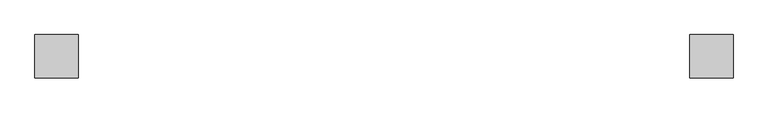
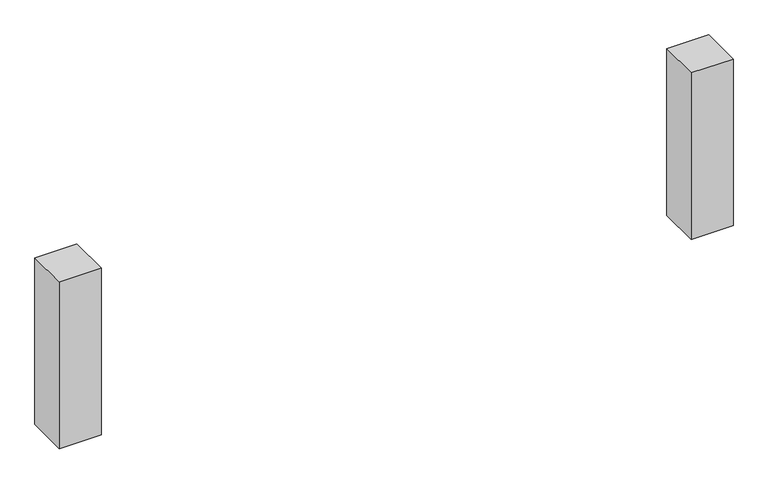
"""IFC4 building model written with IfcOpenShell, lengths in millimetres: proxy geometry, 小立柱 : 小立柱."""

from ifc_helpers import new_model, si_unit, frame, origin, place, context, project, spatial, polyline, outline, extrude, source, transform, mapped, element, save


def specialty_equipment_41b99d19(model_context):
    return source(origin(), model_context, "Body", "SweptSolid", [
        extrude(outline(polyline([(-5995.9782681, 3918.9713095), (-5995.9782681, 3668.9713095), (-6245.9782681, 3668.9713095), (-6245.9782681, 3918.9713095), (-5995.9782681, 3918.9713095)])), frame((0.0, 0.0, 2800.0), z_axis=(0.0, 0.0, 1.0), x_axis=(1.0, 0.0, 0.0)), (0.0, 0.0, 1.0), 1050.0),
        extrude(outline(polyline([(-9755.9782681, 3918.9713095), (-9755.9782681, 3668.9713095), (-10005.9782681, 3668.9713095), (-10005.9782681, 3918.9713095), (-9755.9782681, 3918.9713095)])), frame((0.0, 0.0, 2800.0), z_axis=(0.0, 0.0, 1.0), x_axis=(1.0, 0.0, 0.0)), (0.0, 0.0, 1.0), 1050.0),
    ])


if __name__ == "__main__":
    model = new_model("IFC4")
    model_context = context("Model", 3, world=origin())
    ifc_project = project(units=[si_unit("LENGTHUNIT", "METRE", prefix="MILLI")], contexts=[model_context])
    site = spatial("IfcSite", under=ifc_project)
    building = spatial("IfcBuilding", under=site)
    placement = place(None, origin())
    specialty_equipment_shape = specialty_equipment_41b99d19(model_context)
    element("IfcBuildingElementProxy", 1, Name="小立柱 : 小立柱", ObjectType="小立柱 : 小立柱", at=placement, inside=building, context=model_context, shape_type="MappedRepresentation", body=[
        mapped(specialty_equipment_shape, transform((0.0, 0.0, 0.0), x_axis=(1.0, 0.0, 0.0), y_axis=(0.0, 1.0, 0.0), z_axis=(0.0, 0.0, 1.0))),
    ])
    save(model, "model.ifc")
